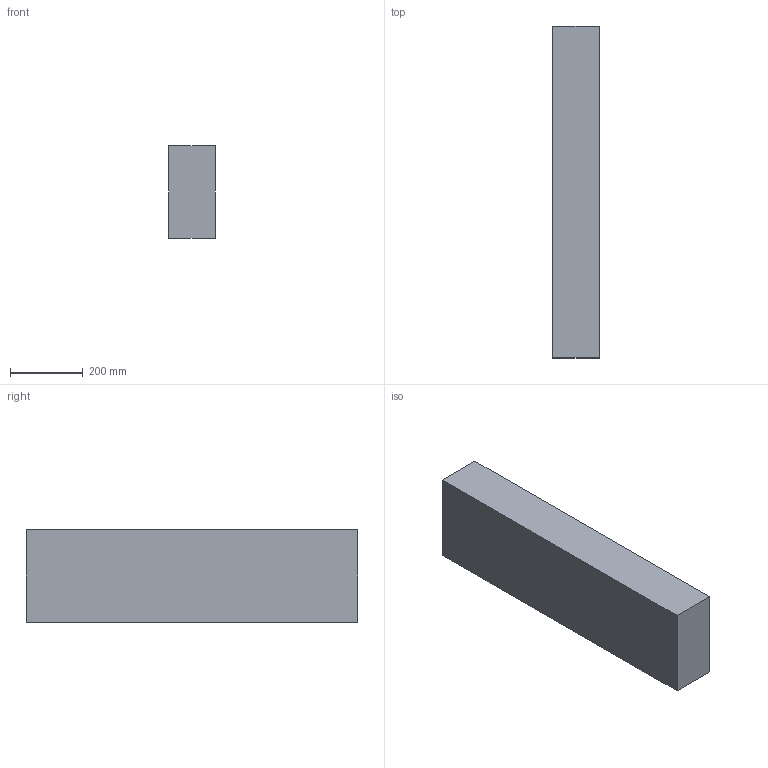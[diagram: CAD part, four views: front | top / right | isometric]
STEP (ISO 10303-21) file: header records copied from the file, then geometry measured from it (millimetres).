
FILE_DESCRIPTION(/* description */ (''),/* implementation_level */ '2;1');
FILE_NAME(/* name */ '5x10x36',/* time_stamp */ '2024-09-20T11:46:09-05:00',/* author */ (''),/* organization */ (''),/* preprocessor_version */ 'ST-DEVELOPER v19.2',/* originating_system */ 'Rhino 8.5',/* authorisation */ '');
FILE_SCHEMA (('CONFIG_CONTROL_DESIGN'));
Length unit declared in the file: inch
Products named in the file (1): Document
Bounding box: 127 x 914.4 x 254 mm (x, y, z)
Volume: 29496715.2 mm3; surface area: 761288.8 mm2
Topology: 1 solids, 1 shells, 6 faces, 12 edges, 8 vertices
Faces by surface type: plane 6
Entity records: 226 total; most frequent: CARTESIAN_POINT 40, ORIENTED_EDGE 24, EDGE_CURVE 12, B_SPLINE_CURVE_WITH_KNOTS 12, DIRECTION 10, VERTEX_POINT 8, AXIS2_PLACEMENT_3D 8, ORGANIZATION 7
